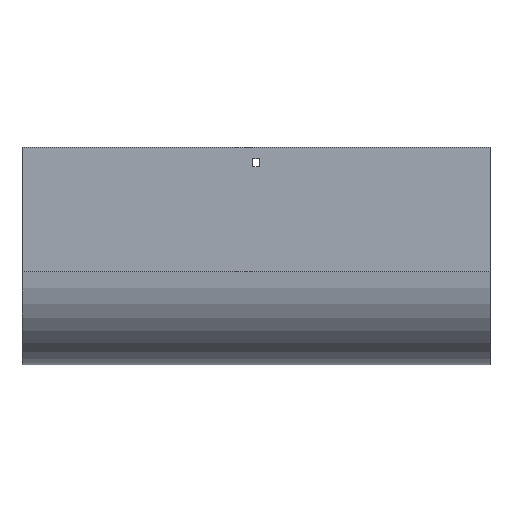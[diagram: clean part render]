
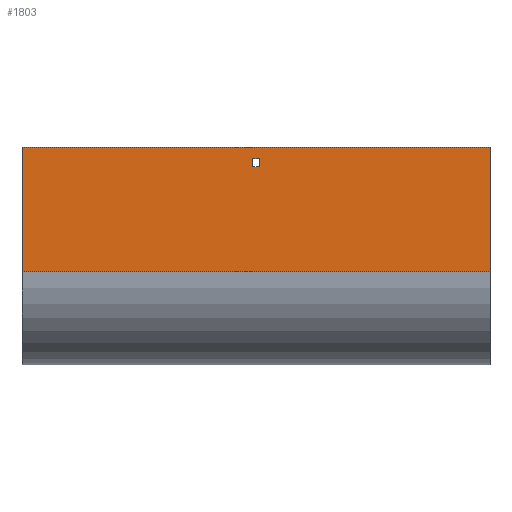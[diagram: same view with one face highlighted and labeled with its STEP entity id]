
A CAD part, front view. The second image highlights one B-rep face of the part: STEP entity #1803.
In plain terms, the highlighted planar face has unit normal (0, -1, 0).
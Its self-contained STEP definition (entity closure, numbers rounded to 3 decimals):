
#4 = ORIENTED_EDGE ( 'NONE', *, *, #327, .F. ) ;
#78 = CARTESIAN_POINT ( 'NONE',  ( -3.25, -104., -21. ) ) ;
#176 = EDGE_CURVE ( 'NONE', #1582, #1108, #434, .T. ) ;
#188 = DIRECTION ( 'NONE',  ( 0., 0., -1. ) ) ;
#198 = CARTESIAN_POINT ( 'NONE',  ( -252., -104., 0. ) ) ;
#219 = EDGE_LOOP ( 'NONE', ( #1189, #990, #370, #605 ) ) ;
#242 = CARTESIAN_POINT ( 'NONE',  ( 3.25, -104., -21. ) ) ;
#248 = VERTEX_POINT ( 'NONE', #1542 ) ;
#283 = VECTOR ( 'NONE', #188, 1000. ) ;
#304 = CARTESIAN_POINT ( 'NONE',  ( 252., -104., -134. ) ) ;
#325 = VECTOR ( 'NONE', #597, 1000. ) ;
#327 = EDGE_CURVE ( 'NONE', #477, #1108, #1251, .T. ) ;
#333 = VERTEX_POINT ( 'NONE', #1674 ) ;
#339 = LINE ( 'NONE', #242, #283 ) ;
#343 = LINE ( 'NONE', #1949, #325 ) ;
#355 = AXIS2_PLACEMENT_3D ( 'NONE', #1228, #606, #783 ) ;
#370 = ORIENTED_EDGE ( 'NONE', *, *, #1375, .T. ) ;
#374 = VECTOR ( 'NONE', #870, 1000. ) ;
#394 = CARTESIAN_POINT ( 'NONE',  ( -3.25, -104., -12. ) ) ;
#401 = VERTEX_POINT ( 'NONE', #394 ) ;
#408 = EDGE_CURVE ( 'NONE', #1367, #1582, #1407, .T. ) ;
#434 = LINE ( 'NONE', #1914, #374 ) ;
#477 = VERTEX_POINT ( 'NONE', #1607 ) ;
#520 = CARTESIAN_POINT ( 'NONE',  ( 252., -104., 0. ) ) ;
#595 = PLANE ( 'NONE',  #355 ) ;
#597 = DIRECTION ( 'NONE',  ( 1., 0., 0. ) ) ;
#605 = ORIENTED_EDGE ( 'NONE', *, *, #1924, .T. ) ;
#606 = DIRECTION ( 'NONE',  ( 0., 1., 0. ) ) ;
#696 = EDGE_CURVE ( 'NONE', #1367, #477, #1680, .T. ) ;
#702 = CARTESIAN_POINT ( 'NONE',  ( -3.25, -104., -21. ) ) ;
#708 = EDGE_LOOP ( 'NONE', ( #1556, #4, #721, #1943 ) ) ;
#721 = ORIENTED_EDGE ( 'NONE', *, *, #696, .F. ) ;
#783 = DIRECTION ( 'NONE',  ( 0., 0., 1. ) ) ;
#844 = VECTOR ( 'NONE', #1531, 1000. ) ;
#870 = DIRECTION ( 'NONE',  ( 0., 0., -1. ) ) ;
#902 = FACE_BOUND ( 'NONE', #219, .T. ) ;
#910 = DIRECTION ( 'NONE',  ( -1., 0., 0. ) ) ;
#969 = VECTOR ( 'NONE', #1121, 1000. ) ;
#990 = ORIENTED_EDGE ( 'NONE', *, *, #1702, .T. ) ;
#1010 = DIRECTION ( 'NONE',  ( 0., 0., 1. ) ) ;
#1060 = VERTEX_POINT ( 'NONE', #1250 ) ;
#1086 = EDGE_CURVE ( 'NONE', #1060, #248, #1427, .T. ) ;
#1103 = CARTESIAN_POINT ( 'NONE',  ( -252., -104., -134. ) ) ;
#1108 = VERTEX_POINT ( 'NONE', #1103 ) ;
#1112 = VECTOR ( 'NONE', #1010, 1000. ) ;
#1121 = DIRECTION ( 'NONE',  ( -1., 0., 0. ) ) ;
#1189 = ORIENTED_EDGE ( 'NONE', *, *, #1086, .T. ) ;
#1210 = CARTESIAN_POINT ( 'NONE',  ( 252., -104., 0. ) ) ;
#1228 = CARTESIAN_POINT ( 'NONE',  ( 252., -104., -134. ) ) ;
#1250 = CARTESIAN_POINT ( 'NONE',  ( 3.25, -104., -21. ) ) ;
#1251 = LINE ( 'NONE', #304, #1568 ) ;
#1318 = VECTOR ( 'NONE', #1851, 1000. ) ;
#1367 = VERTEX_POINT ( 'NONE', #1210 ) ;
#1375 = EDGE_CURVE ( 'NONE', #401, #333, #343, .T. ) ;
#1407 = LINE ( 'NONE', #520, #969 ) ;
#1427 = LINE ( 'NONE', #78, #1318 ) ;
#1531 = DIRECTION ( 'NONE',  ( 0., 0., -1. ) ) ;
#1542 = CARTESIAN_POINT ( 'NONE',  ( -3.25, -104., -21. ) ) ;
#1556 = ORIENTED_EDGE ( 'NONE', *, *, #176, .T. ) ;
#1568 = VECTOR ( 'NONE', #910, 1000. ) ;
#1582 = VERTEX_POINT ( 'NONE', #198 ) ;
#1607 = CARTESIAN_POINT ( 'NONE',  ( 252., -104., -134. ) ) ;
#1619 = LINE ( 'NONE', #702, #1112 ) ;
#1674 = CARTESIAN_POINT ( 'NONE',  ( 3.25, -104., -12. ) ) ;
#1680 = LINE ( 'NONE', #1859, #844 ) ;
#1702 = EDGE_CURVE ( 'NONE', #248, #401, #1619, .T. ) ;
#1803 = ADVANCED_FACE ( 'NONE', ( #902, #1838 ), #595, .F. ) ;
#1838 = FACE_OUTER_BOUND ( 'NONE', #708, .T. ) ;
#1851 = DIRECTION ( 'NONE',  ( -1., 0., 0. ) ) ;
#1859 = CARTESIAN_POINT ( 'NONE',  ( 252., -104., -134. ) ) ;
#1914 = CARTESIAN_POINT ( 'NONE',  ( -252., -104., -134. ) ) ;
#1924 = EDGE_CURVE ( 'NONE', #333, #1060, #339, .T. ) ;
#1943 = ORIENTED_EDGE ( 'NONE', *, *, #408, .T. ) ;
#1949 = CARTESIAN_POINT ( 'NONE',  ( -3.25, -104., -12. ) ) ;
